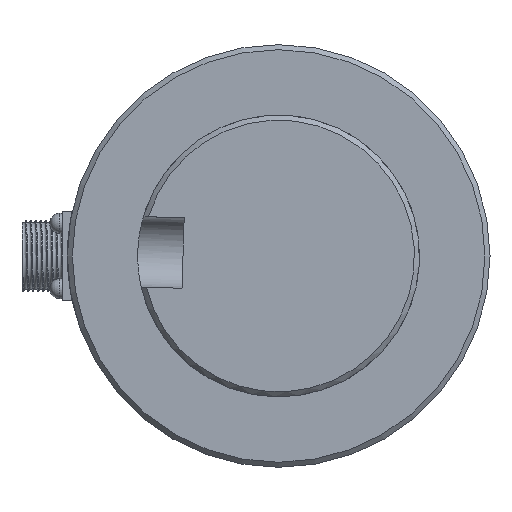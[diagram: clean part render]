
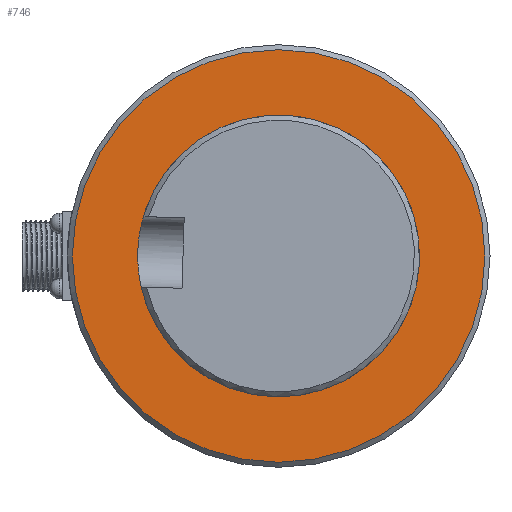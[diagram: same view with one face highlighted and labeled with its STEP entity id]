
A CAD part, left-side view. The second image highlights one B-rep face of the part: STEP entity #746.
In plain terms, the highlighted planar face has unit normal (-1, 0, 0).
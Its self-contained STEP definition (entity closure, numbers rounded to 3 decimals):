
#27=PLANE('',#839);
#44=FACE_BOUND('',#126,.T.);
#80=FACE_OUTER_BOUND('',#125,.T.);
#125=EDGE_LOOP('',(#558));
#126=EDGE_LOOP('',(#559));
#170=CIRCLE('',#831,41.);
#171=CIRCLE('',#833,28.);
#335=VERTEX_POINT('',#1759);
#336=VERTEX_POINT('',#1763);
#418=EDGE_CURVE('',#335,#335,#170,.T.);
#419=EDGE_CURVE('',#336,#336,#171,.T.);
#558=ORIENTED_EDGE('',*,*,#418,.T.);
#559=ORIENTED_EDGE('',*,*,#419,.T.);
#746=ADVANCED_FACE('',(#80,#44),#27,.F.);
#831=AXIS2_PLACEMENT_3D('',#1761,#966,#967);
#833=AXIS2_PLACEMENT_3D('',#1764,#970,#971);
#839=AXIS2_PLACEMENT_3D('',#1779,#986,#987);
#966=DIRECTION('center_axis',(-1.,0.,0.));
#967=DIRECTION('ref_axis',(0.,0.,-1.));
#970=DIRECTION('center_axis',(1.,0.,0.));
#971=DIRECTION('ref_axis',(0.,0.,-1.));
#986=DIRECTION('center_axis',(1.,0.,0.));
#987=DIRECTION('ref_axis',(0.,0.,-1.));
#1759=CARTESIAN_POINT('',(-22.5,0.,41.));
#1761=CARTESIAN_POINT('Origin',(-22.5,0.,0.));
#1763=CARTESIAN_POINT('',(-22.5,0.,28.));
#1764=CARTESIAN_POINT('Origin',(-22.5,0.,0.));
#1779=CARTESIAN_POINT('Origin',(-22.5,0.,0.));
